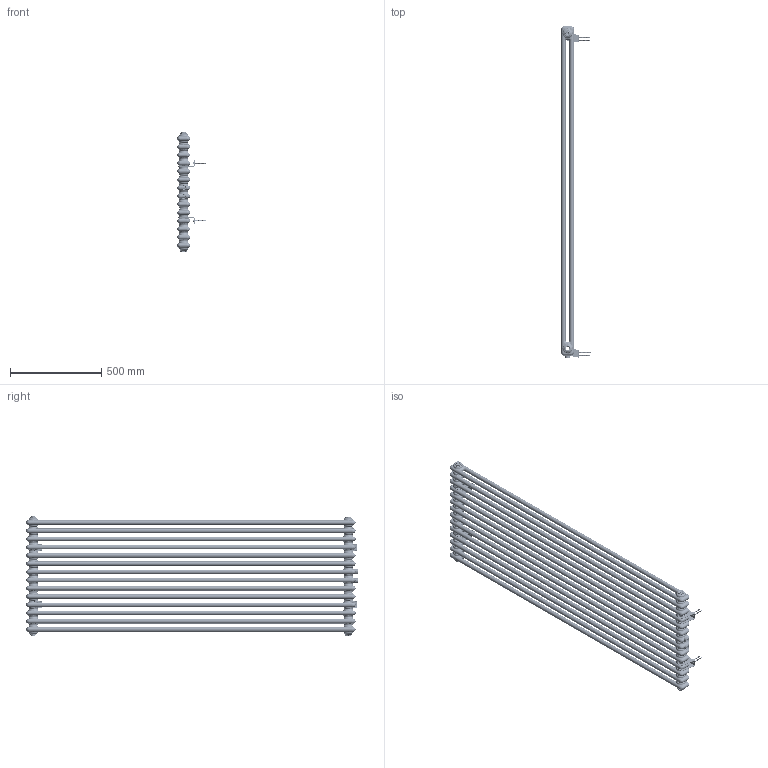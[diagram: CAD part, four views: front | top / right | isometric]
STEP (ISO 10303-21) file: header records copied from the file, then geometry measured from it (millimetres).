
FILE_DESCRIPTION(/* description */ (''),/* implementation_level */ '2;1');
FILE_NAME(/* name */ 'CL02 1800x650 D50',/* time_stamp */ '2023-09-09T16:12:21+08:00',/* author */ (''),/* organization */ (''),/* preprocessor_version */ 'ST-DEVELOPER v9',/* originating_system */ 'UGS - NX 4.0',/* authorisation */ '');
FILE_SCHEMA (('CONFIG_CONTROL_DESIGN'));
Length unit declared in the file: millimetre
Products named in the file (1): AdmiF21Fozos
Bounding box: 161.6 x 1816 x 662 mm (x, y, z)
Volume: 5776609.9 mm3; surface area: 7658352.7 mm2
Topology: 35 solids, 35 shells, 4629 faces, 11219 edges, 6649 vertices
Faces by surface type: bspline 1427, cylinder 1015, plane 956, torus 804, cone 427
Full cylindrical faces by diameter (mm): 19 x2, 25 x2
Entity records: 297038 total; most frequent: CARTESIAN_POINT 199618, ORIENTED_EDGE 22402, DIRECTION 17937, EDGE_CURVE 11201, AXIS2_PLACEMENT_3D 7581, VERTEX_POINT 6651, EDGE_LOOP 4808, ADVANCED_FACE 4629
